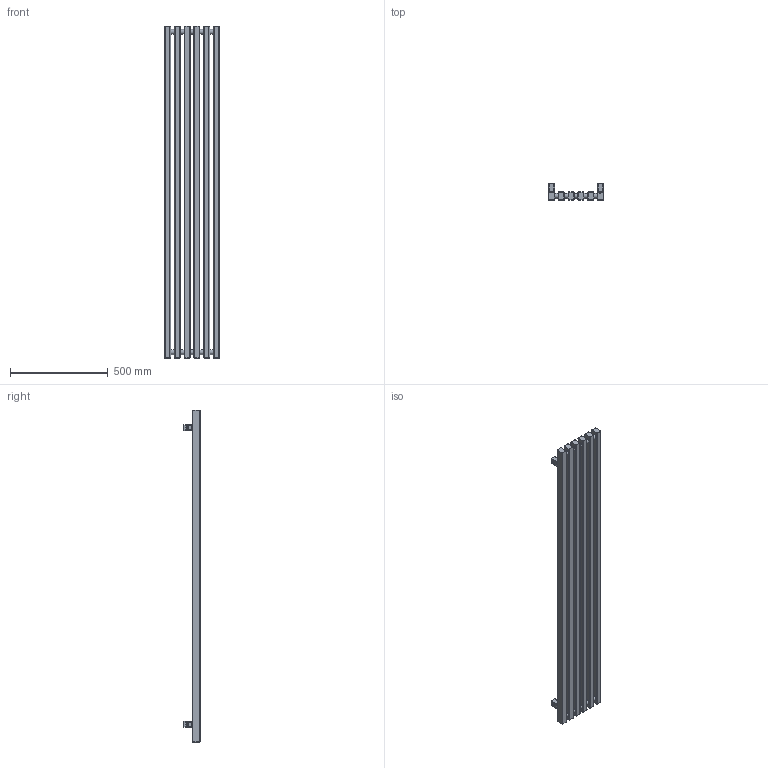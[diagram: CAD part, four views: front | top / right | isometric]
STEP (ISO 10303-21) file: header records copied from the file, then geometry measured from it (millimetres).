
FILE_DESCRIPTION((''),'2;1');
FILE_NAME('Z:\R\G\P\RGP029 - Grzejnik Triga ( ZET)\Work\Inventor\Triga v1.1\Marketing\AutoCad 3D\G-TR-XX-MK-XX-17-38-ZX.stp','2012-07-26T13:01:11',('DawPi'),(''),'Autodesk Inventor 2012','Autodesk Inventor 2012','');
FILE_SCHEMA(('AUTOMOTIVE_DESIGN { 1 0 10303 214 1 1 1 1 }'));
Length unit declared in the file: millimetre
Products named in the file (3): G-TR-XX-MK-XX-17-38-ZX; MMT42
Assembly tree (5 placements, depth 2):
  G-TR-XX-MK-XX-17-38-ZX
    G-TR-XX-MK-XX-17-38-ZX
    MMT42  x4
Bounding box: 286 x 82 x 1700 mm (x, y, z)
Volume: 12394756.6 mm3; surface area: 1427072.2 mm2
Topology: 5 solids, 5 shells, 373 faces, 845 edges, 515 vertices
Faces by surface type: plane 147, cylinder 141, bspline 48, cone 24, torus 13
Full cylindrical faces by diameter (mm): 4.134 x4, 4.509 x4, 10 x4, 11.445 x1, 12 x4, 18.631 x2, 25 x10
Entity records: 10127 total; most frequent: CARTESIAN_POINT 4914, DIRECTION 1154, ORIENTED_EDGE 972, EDGE_CURVE 486, AXIS2_PLACEMENT_3D 474, VERTEX_POINT 306, EDGE_LOOP 304, CIRCLE 276
